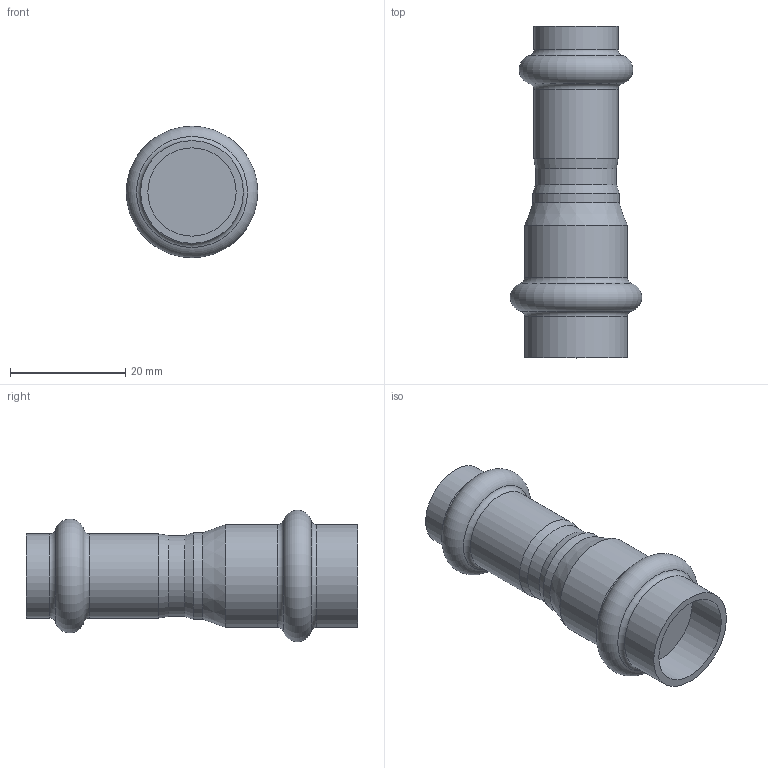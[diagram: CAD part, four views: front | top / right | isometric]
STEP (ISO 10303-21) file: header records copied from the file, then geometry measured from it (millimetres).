
FILE_DESCRIPTION(('STEP AP203'), '1');
FILE_NAME('VTi.903.I.001512', '', ('UNSPECIFIED'), ('UNSPECIFIED'), 'C3D Converter', 'C3D Toolkit', '');
FILE_SCHEMA(('CONFIG_CONTROL_DESIGN'));
Length unit declared in the file: millimetre
Bounding box: 22.8 x 57.5 x 22.8 mm (x, y, z)
Volume: 11014.1 mm3; surface area: 4215.4 mm2
Topology: 1 solids, 1 shells, 21 faces, 37 edges, 20 vertices
Faces by surface type: cylinder 8, torus 6, plane 4, cone 3
Full cylindrical faces by diameter (mm): 12.2 x1, 14 x1, 14.6 x2, 15 x1, 15.3 x1, 17.8 x2
Entity records: 454 total; most frequent: DIRECTION 84, CARTESIAN_POINT 62, AXIS2_PLACEMENT_3D 42, EDGE_LOOP 40, ORIENTED_EDGE 40, FACE_OUTER_BOUND 34, ADVANCED_FACE 21, EDGE_CURVE 20
